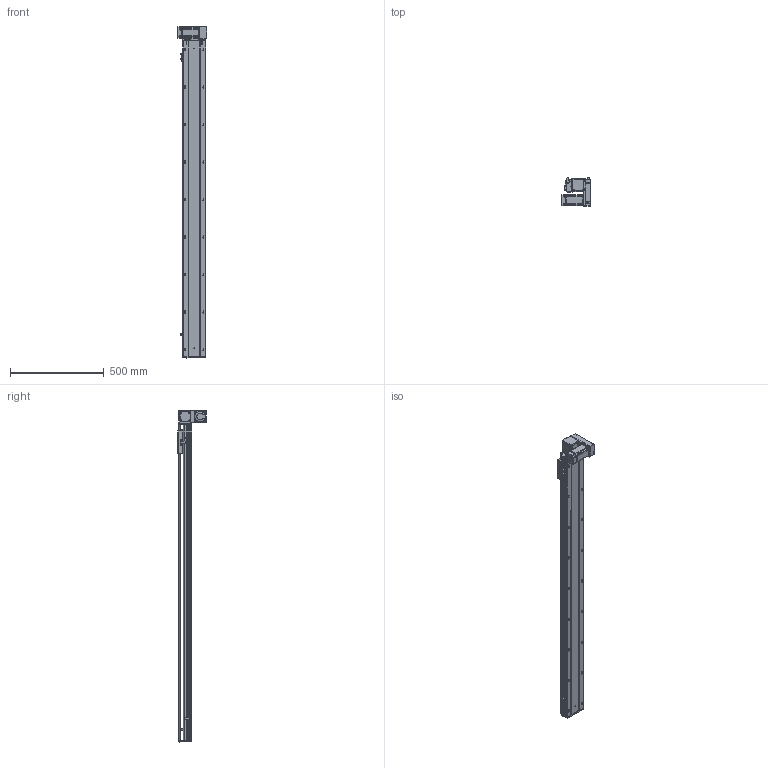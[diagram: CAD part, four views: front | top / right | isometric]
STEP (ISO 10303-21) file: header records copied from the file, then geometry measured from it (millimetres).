
FILE_DESCRIPTION (( 'STEP AP203' ), '1' );
FILE_NAME ('RY120-T-300-DR.SLDASM_1450.step', '2021-03-01T03:36:29', ( '盈信电脑' ), ( '东莞市道滘镇水果街19号' ), 'SwSTEP 2.0', 'SolidWorks 2012', '' );
FILE_SCHEMA (( 'CONFIG_CONTROL_DESIGN' ));
Length unit declared in the file: millimetre
Products named in the file (17): RY120-T主同步轮轴承压盖; RY120-T蹟翐M4; RY120-T萇儂欶; RY120-T-300-DR.SLDASM_1450; RY120-T翋肮祭謫裔啣; RY120-T萇儂假蚾啣; 15; RY120-T肮祭湍揤踡輸2; RY120-T肮祭湍揤踡輸1; 滅袉蝶18-10; RY120-T翋肮祭盓傅釱; 覜茼ん672; RY120綴裔啣; RY120肮祭湍臏賑輸; RY120外置感应片(140共用）; RY120-T-300-DR倰第菁釱_1450; RY120-T-300-DR倰第奻裔啣_1450
Assembly tree (22 placements, depth 2):
  RY120-T-300-DR.SLDASM_1450
    RY120-T-300-DR倰第菁釱_1450
    RY120-T-300-DR倰第奻裔啣_1450
    RY120肮祭湍臏賑輸
    RY120綴裔啣
    覜茼ん672  x3
    RY120外置感应片(140共用）
    RY120-T肮祭湍揤踡輸1
    RY120-T肮祭湍揤踡輸2
    RY120-T翋肮祭盓傅釱
    滅袉蝶18-10  x2
    RY120-T翋肮祭謫裔啣
    15
    RY120-T萇儂假蚾啣
    RY120-T蹟翐M4  x4
    RY120-T萇儂欶
    RY120-T主同步轮轴承压盖
Bounding box: 155.5 x 150 x 1771 mm (x, y, z)
Volume: 4602123.7 mm3; surface area: 1741066.4 mm2
Topology: 23 solids, 23 shells, 2964 faces, 8096 edges, 5174 vertices
Faces by surface type: plane 1436, cylinder 1154, cone 285, bspline 89
Entity records: 94813 total; most frequent: CARTESIAN_POINT 24436, ORIENTED_EDGE 14552, DIRECTION 13750, EDGE_CURVE 7276, VERTEX_POINT 4761, AXIS2_PLACEMENT_3D 4639, LINE 4472, VECTOR 4472
